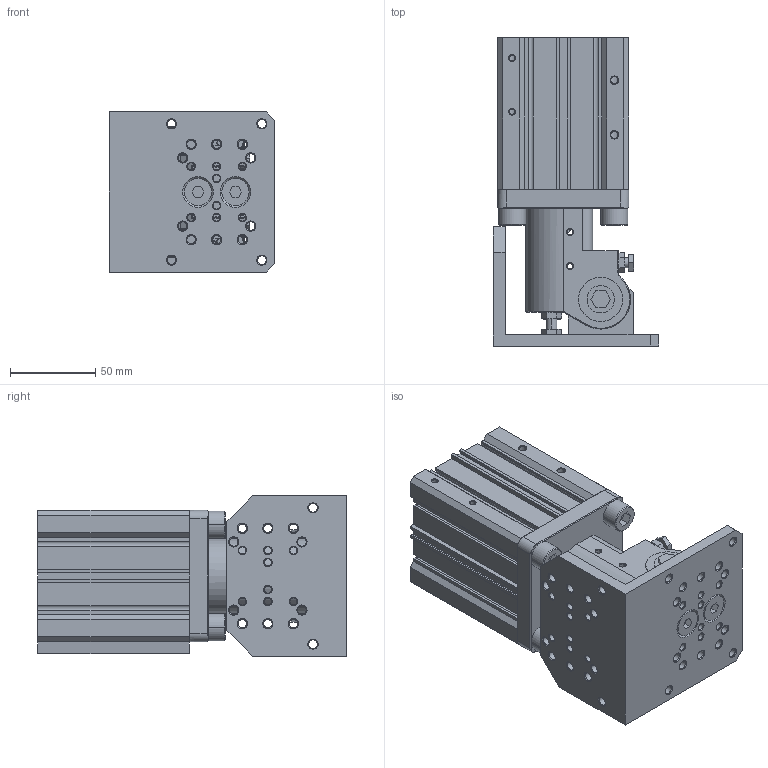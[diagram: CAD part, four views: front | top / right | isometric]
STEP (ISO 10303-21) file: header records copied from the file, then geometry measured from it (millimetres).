
FILE_DESCRIPTION(/* description */ (''),/* implementation_level */ '2;1');
FILE_NAME(/* name */ 'DHR2C-63M35PPV-ZG-LB.stp',/* time_stamp */ '2025-04-09T11:21:29+08:00',/* author */ (''),/* organization */ (''),/* preprocessor_version */ 'ST-DEVELOPER v15',/* originating_system */ 'SIEMENS PLM Software NX 10.0',/* authorisation */ '');
FILE_SCHEMA (('AP203_CONFIGURATION_CONTROLLED_3D_DESIGN_OF_MECHANICAL_PARTS_AND_ASSEMBLIES_MIM_LF { 1 0 10303 403 2 1 2}'));
Length unit declared in the file: millimetre
Products named in the file (1): Admi00C8E5C0fe0r
Bounding box: 97 x 181 x 94 mm (x, y, z)
Volume: 732045.1 mm3; surface area: 171490.2 mm2
Topology: 30 solids, 30 shells, 984 faces, 2397 edges, 1489 vertices
Faces by surface type: plane 421, cone 255, cylinder 244, sphere 48, torus 12, bspline 4
Full cylindrical faces by diameter (mm): 3 x2, 4.2 x16, 5 x26, 6 x1, 8 x4, 8.5 x2, 11.6 x2, 12 x1, 16 x2
Entity records: 31022 total; most frequent: CARTESIAN_POINT 8192, DIRECTION 4812, ORIENTED_EDGE 4410, EDGE_CURVE 2205, AXIS2_PLACEMENT_3D 1829, VERTEX_POINT 1453, EDGE_LOOP 1320, LINE 1154
